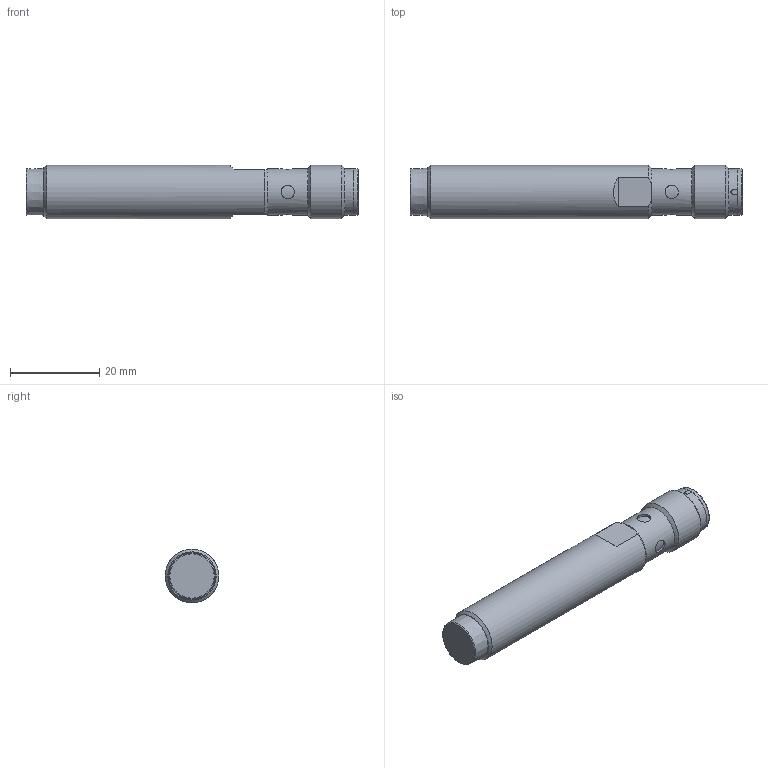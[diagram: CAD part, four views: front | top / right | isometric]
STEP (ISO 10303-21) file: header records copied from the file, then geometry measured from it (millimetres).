
FILE_DESCRIPTION(/* description */ (''),/* implementation_level */ '2;1');
FILE_NAME(/* name */ 'V:\AUTOCAD\_tegninger\Stepfiles - 3D\ICS\ICS12xxxxxxxxE1\ICS12L50N08xxM1E1.stp',/* time_stamp */ '2020-08-06T10:10:57+02:00',/* author */ ('TVB'),/* organization */ (''),/* preprocessor_version */ 'ST-DEVELOPER v18',/* originating_system */ 'Autodesk Inventor 2020',/* authorisation */ '');
FILE_SCHEMA (('AUTOMOTIVE_DESIGN { 1 0 10303 214 3 1 1 }'));
Length unit declared in the file: millimetre
Products named in the file (1): ICS12L50N08xxM1E1
Bounding box: 74.2 x 12 x 12 mm (x, y, z)
Volume: 7329.2 mm3; surface area: 3919.7 mm2
Topology: 1 solids, 1 shells, 84 faces, 235 edges, 154 vertices
Faces by surface type: plane 30, cylinder 27, cone 16, torus 6, sphere 4, bspline 1
Full cylindrical faces by diameter (mm): 1 x4, 3 x4, 8.157 x1, 9.37 x1, 9.5 x1, 10.5 x2, 12 x2
Entity records: 3940 total; most frequent: CARTESIAN_POINT 1671, DIRECTION 464, ORIENTED_EDGE 462, EDGE_CURVE 231, AXIS2_PLACEMENT_3D 192, VERTEX_POINT 154, CIRCLE 104, EDGE_LOOP 93
